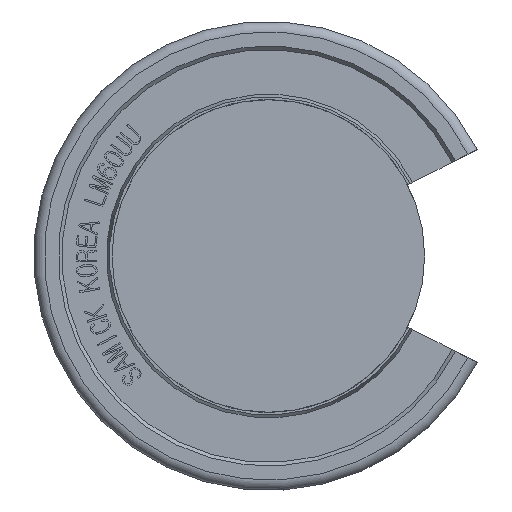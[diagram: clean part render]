
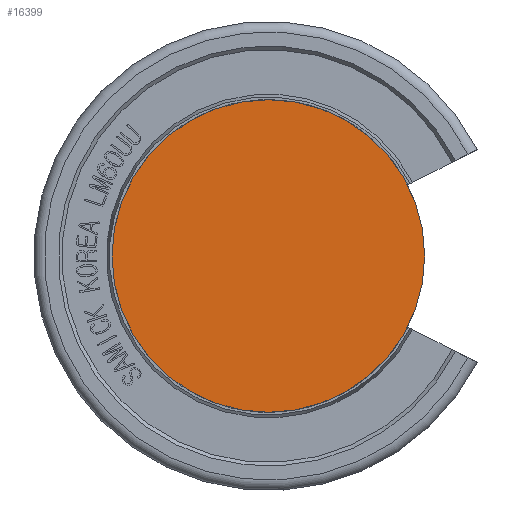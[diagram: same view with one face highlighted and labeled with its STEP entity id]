
A CAD part, front view. The second image highlights one B-rep face of the part: STEP entity #16399.
In plain terms, the highlighted planar face has unit normal (0, -1, 0).
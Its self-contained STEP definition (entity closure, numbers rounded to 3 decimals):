
#53=CIRCLE('',#16680,30.);
#3794=FACE_OUTER_BOUND('',#4676,.T.);
#4676=EDGE_LOOP('',(#14505));
#7463=VERTEX_POINT('',#29237);
#9821=EDGE_CURVE('',#7463,#7463,#53,.T.);
#14505=ORIENTED_EDGE('',*,*,#9821,.F.);
#14771=PLANE('',#16682);
#16399=ADVANCED_FACE('',(#3794),#14771,.T.);
#16680=AXIS2_PLACEMENT_3D('',#29239,#18331,#18332);
#16682=AXIS2_PLACEMENT_3D('',#29241,#18335,#18336);
#18331=DIRECTION('center_axis',(0.,1.,0.));
#18332=DIRECTION('ref_axis',(1.,0.,0.));
#18335=DIRECTION('center_axis',(0.,-1.,0.));
#18336=DIRECTION('ref_axis',(0.,0.,-1.));
#29237=CARTESIAN_POINT('',(-30.,-87.5,0.));
#29239=CARTESIAN_POINT('Origin',(0.,-87.5,0.));
#29241=CARTESIAN_POINT('Origin',(0.,-87.5,0.));
